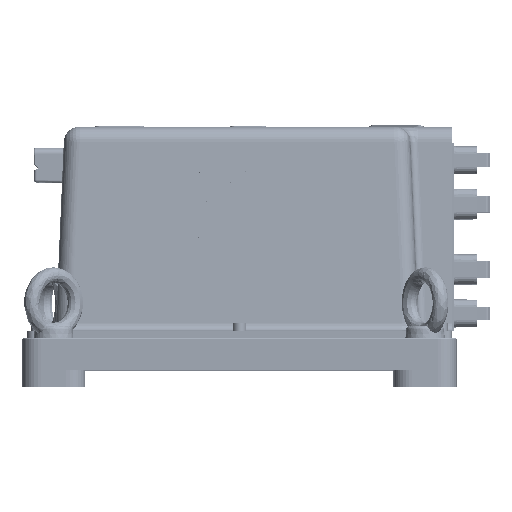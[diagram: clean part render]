
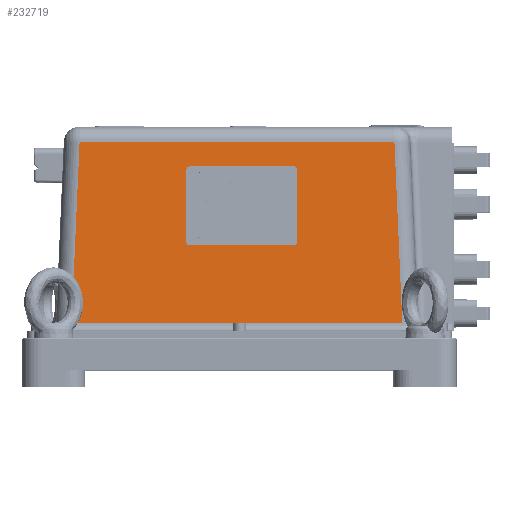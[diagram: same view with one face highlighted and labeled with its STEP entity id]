
A CAD part, top view. The second image highlights one B-rep face of the part: STEP entity #232719.
In plain terms, the highlighted planar face has unit normal (0, 0.044, 0.999).
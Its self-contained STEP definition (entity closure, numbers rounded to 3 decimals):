
#16697 = ORIENTED_EDGE ( 'NONE', *, *, #184712, .T. ) ;
#25935 = VECTOR ( 'NONE', #183920, 1000. ) ;
#30218 = VERTEX_POINT ( 'NONE', #83270 ) ;
#40869 = VERTEX_POINT ( 'NONE', #359807 ) ;
#53277 = AXIS2_PLACEMENT_3D ( 'NONE', #307597, #366806, #190385 ) ;
#58330 = EDGE_CURVE ( 'NONE', #303790, #40869, #261019, .T. ) ;
#67662 = CARTESIAN_POINT ( 'NONE',  ( 0., 9.782, 103.573 ) ) ;
#69978 = ORIENTED_EDGE ( 'NONE', *, *, #335746, .T. ) ;
#71787 = EDGE_CURVE ( 'NONE', #286715, #30218, #166465, .T. ) ;
#83270 = CARTESIAN_POINT ( 'NONE',  ( 99.577, 124.436, 98.567 ) ) ;
#99813 = EDGE_LOOP ( 'NONE', ( #220718, #16697, #181275, #69978 ) ) ;
#138761 = CARTESIAN_POINT ( 'NONE',  ( 104.582, 9.782, 103.573 ) ) ;
#155445 = CARTESIAN_POINT ( 'NONE',  ( -104.81, 4.567, 103.801 ) ) ;
#166465 = LINE ( 'NONE', #286291, #323292 ) ;
#181275 = ORIENTED_EDGE ( 'NONE', *, *, #71787, .T. ) ;
#183920 = DIRECTION ( 'NONE',  ( -0.044, -0.998, 0.044 ) ) ;
#184712 = EDGE_CURVE ( 'NONE', #40869, #286715, #197200, .T. ) ;
#190385 = DIRECTION ( 'NONE',  ( 0., -0.999, 0.044 ) ) ;
#197200 = LINE ( 'NONE', #67662, #275577 ) ;
#220718 = ORIENTED_EDGE ( 'NONE', *, *, #58330, .T. ) ;
#223475 = VECTOR ( 'NONE', #238744, 1000. ) ;
#232719 = ADVANCED_FACE ( 'NONE', ( #308255 ), #277944, .T. ) ;
#238744 = DIRECTION ( 'NONE',  ( -1., 0., 0. ) ) ;
#261019 = LINE ( 'NONE', #155445, #25935 ) ;
#273737 = DIRECTION ( 'NONE',  ( 1., 0., 0. ) ) ;
#275577 = VECTOR ( 'NONE', #273737, 1000. ) ;
#277944 = PLANE ( 'NONE',  #53277 ) ;
#286291 = CARTESIAN_POINT ( 'NONE',  ( 104.81, 4.567, 103.801 ) ) ;
#286715 = VERTEX_POINT ( 'NONE', #138761 ) ;
#301975 = LINE ( 'NONE', #326374, #223475 ) ;
#303790 = VERTEX_POINT ( 'NONE', #362827 ) ;
#307597 = CARTESIAN_POINT ( 'NONE',  ( 0., 0., 104. ) ) ;
#308255 = FACE_OUTER_BOUND ( 'NONE', #99813, .T. ) ;
#323292 = VECTOR ( 'NONE', #370103, 1000. ) ;
#326374 = CARTESIAN_POINT ( 'NONE',  ( -99.159, 124.436, 98.567 ) ) ;
#335746 = EDGE_CURVE ( 'NONE', #30218, #303790, #301975, .T. ) ;
#359807 = CARTESIAN_POINT ( 'NONE',  ( -104.582, 9.782, 103.573 ) ) ;
#362827 = CARTESIAN_POINT ( 'NONE',  ( -99.577, 124.436, 98.567 ) ) ;
#366806 = DIRECTION ( 'NONE',  ( 0., 0.044, 0.999 ) ) ;
#370103 = DIRECTION ( 'NONE',  ( -0.044, 0.998, -0.044 ) ) ;
